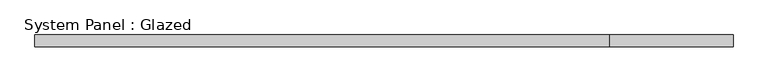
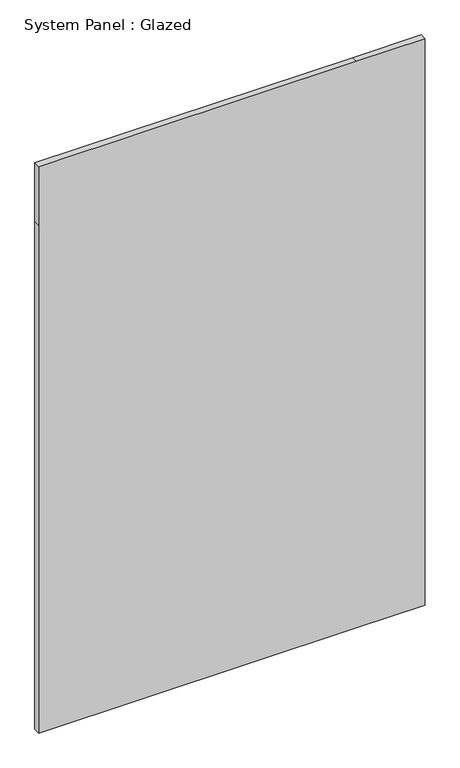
"""IFC4 building model written with IfcOpenShell, lengths in millimetres: plate geometry, System Panel : Glazed."""

from ifc_helpers import new_model, si_unit, frame, origin, place, context, project, spatial, polyline, outline, extrude, source, transform, mapped, element, save


def system_panel_glazed_8d3e4aee(model_context):
    return source(origin(), model_context, "Body", "SweptSolid", [
        extrude(outline(polyline([(0.0, -756.44375), (0.0, 488.95), (0.0, 756.44375), (2101.85, 756.44375), (2343.15, 756.44375), (2343.15, 488.95), (2343.15, -756.44375), (2101.85, -756.44375), (0.0, -756.44375)])), frame((0.0, -44.45, 0.0), z_axis=(0.0, 1.0, 0.0), x_axis=(0.0, 0.0, 1.0)), (0.0, 0.0, 1.0), 25.4),
    ])


if __name__ == "__main__":
    model = new_model("IFC4")
    model_context = context("Model", 3, world=origin())
    ifc_project = project(units=[si_unit("LENGTHUNIT", "METRE", prefix="MILLI")], contexts=[model_context])
    site = spatial("IfcSite", under=ifc_project)
    building = spatial("IfcBuilding", under=site)
    placement = place(None, origin())
    system_panel_glazed_shape = system_panel_glazed_8d3e4aee(model_context)
    element("IfcPlate", 1, ObjectType="System Panel : Glazed", at=placement, inside=building, context=model_context, shape_type="MappedRepresentation", body=[
        mapped(system_panel_glazed_shape, transform((0.0, 0.0, 0.0), x_axis=(1.0, 0.0, 0.0), y_axis=(0.0, 1.0, 0.0), z_axis=(0.0, 0.0, 1.0))),
    ])
    save(model, "model.ifc")
